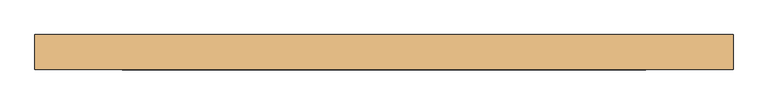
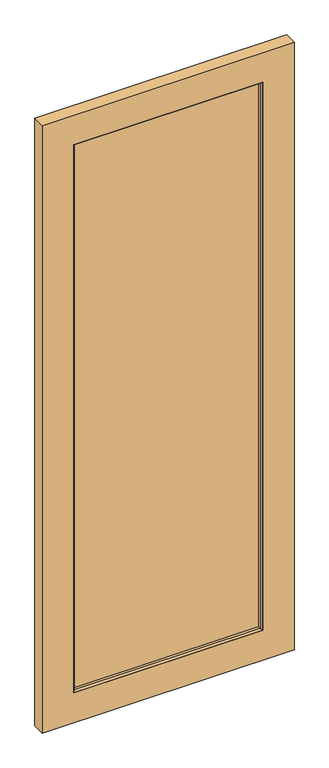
"""IFC4 building model written with IfcOpenShell, lengths in millimetres: door geometry, Planitar - Swap_Full Glass_Panel : Planitar - Swap_Full Glass_Panel."""

from ifc_helpers import new_model, si_unit, frame, origin, place, context, project, spatial, polyline, outline, extrude, faceted_brep, source, transform, mapped, element, save


def door_d0fec1b0(model_context):
    return source(origin(), model_context, "Body", "SolidModel", [
        extrude(outline(polyline([(2590.8, 508.0), (2590.8, -508.0), (0.0, -508.0), (0.0, 508.0), (2590.8, 508.0)]), holes=[polyline([(127.0, 381.0), (127.0, -381.0), (2463.8, -381.0), (2463.8, 381.0), (127.0, 381.0)])]), frame((0.0, -25.4, 0.0), z_axis=(0.0, 1.0, 0.0), x_axis=(0.0, 0.0, 1.0)), (0.0, 0.0, 1.0), 50.8),
        extrude(outline(polyline([(374.65, -6.35), (-374.65, -6.35), (-374.65, 6.35), (374.65, 6.35), (374.65, -6.35)])), frame((0.0, 0.0, 133.35), z_axis=(0.0, 0.0, 1.0), x_axis=(1.0, 0.0, 0.0)), (0.0, 0.0, 1.0), 2324.1),
        faceted_brep([(374.65, 19.05, 133.35), (381.0, 25.4, 127.0), (-381.0, 25.4, 127.0), (-374.65, 19.05, 133.35), (-381.0, 25.4, 2463.8), (-374.65, 19.05, 2457.45), (-381.0, -25.4, 127.0), (-381.0, -25.4, 2463.8), (-374.65, -19.05, 2457.45), (-374.65, -19.05, 133.35), (374.65, -19.05, 133.35), (381.0, -25.4, 127.0), (374.65, 19.05, 2457.45), (381.0, 25.4, 2463.8), (381.0, -25.4, 2463.8), (374.65, -19.05, 2457.45)], [[[0, 1, 2, 3]], [[3, 2, 4, 5]], [[2, 6, 7, 4]], [[3, 5, 8, 9]], [[6, 9, 8, 7]], [[10, 0, 3, 9]], [[11, 10, 9, 6]], [[1, 11, 6, 2]], [[12, 13, 1, 0]], [[13, 14, 11, 1]], [[15, 12, 0, 10]], [[14, 15, 10, 11]], [[5, 4, 13, 12]], [[8, 5, 12, 15]], [[7, 8, 15, 14]], [[4, 7, 14, 13]]]),
    ])


if __name__ == "__main__":
    model = new_model("IFC4")
    model_context = context("Model", 3, world=origin())
    ifc_project = project(units=[si_unit("LENGTHUNIT", "METRE", prefix="MILLI")], contexts=[model_context])
    site = spatial("IfcSite", under=ifc_project)
    building = spatial("IfcBuilding", under=site)
    placement = place(None, origin())
    door_shape = door_d0fec1b0(model_context)
    element("IfcDoor", 1, ObjectType="Planitar - Swap_Full Glass_Panel : Planitar - Swap_Full Glass_Panel", at=placement, inside=building, context=model_context, shape_type="MappedRepresentation", body=[
        mapped(door_shape, transform((0.0, 0.0, 0.0), x_axis=(1.0, 0.0, 0.0), y_axis=(0.0, 1.0, 0.0), z_axis=(0.0, 0.0, 1.0))),
    ])
    save(model, "model.ifc")
